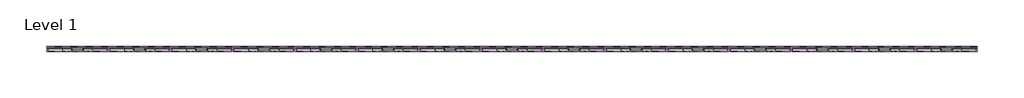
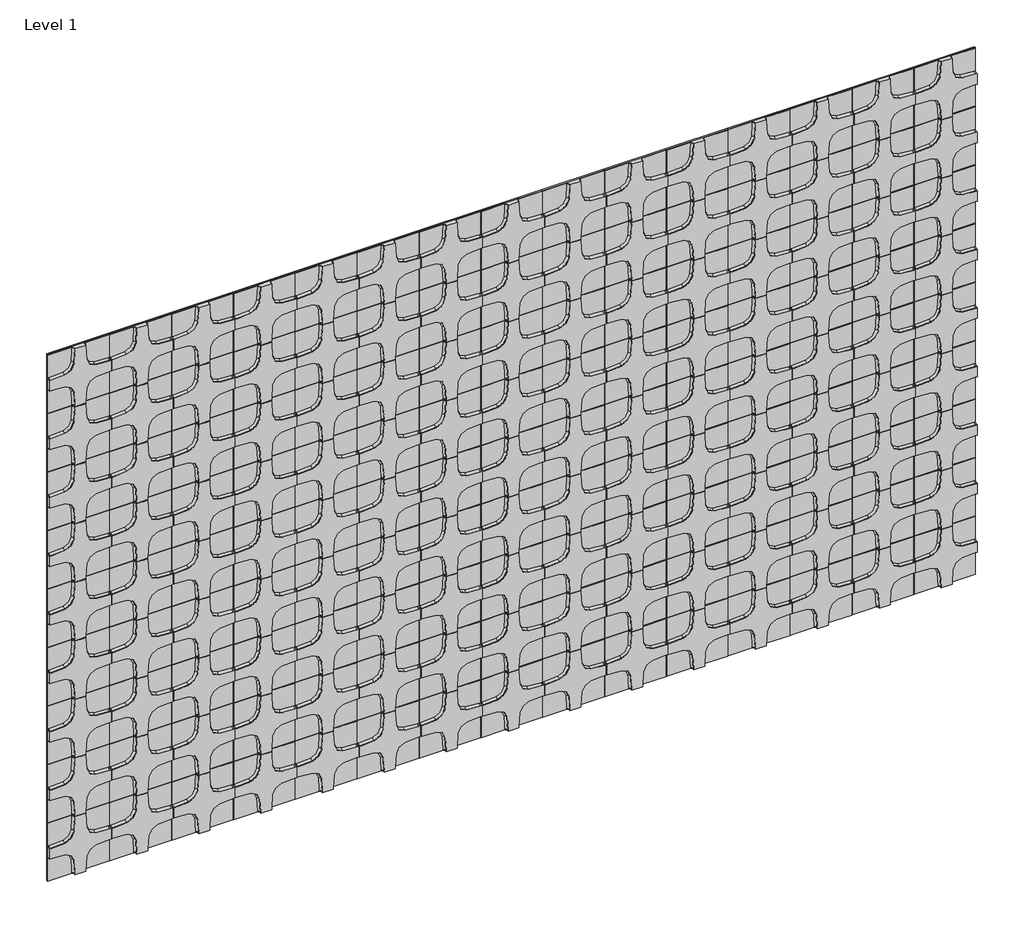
# One storey: 135 proxies.
"""IFC4 building model written with IfcOpenShell, lengths in millimetres."""

from ifc_helpers import new_model, si_unit, origin, place, context, project, spatial, transform, mapped, element, save
from components import specialty_equipment_d5421138

model = new_model("IFC4")

# Units and contexts
model_context = context("Model", 3, world=origin())
ifc_project = project(units=[si_unit("LENGTHUNIT", "METRE", prefix="MILLI")], contexts=[model_context])

# Site, building, storey
site = spatial("IfcSite", under=ifc_project)
building = spatial("IfcBuilding", under=site)
storey = spatial("IfcBuildingStorey", under=building, Name="Level 1", Elevation=0.0)

# Proxies
placement = place(None, origin())
specialty_equipment_shape = specialty_equipment_d5421138(model_context)
element("IfcBuildingElementProxy", 1, Name="Spinneybeck_Quartile : Quartile 2", ObjectType="Spinneybeck_Quartile : Quartile 2", at=placement, inside=storey, context=model_context, shape_type="MappedRepresentation", body=[
    mapped(specialty_equipment_shape, transform((-9133.2606366, 2074.1714817, 152.4), x_axis=(1.0, 0.0, 0.0), y_axis=(0.0, 0.0, 1.0), z_axis=(0.0, -1.0, 0.0))),
])
element("IfcBuildingElementProxy", 2, Name="Spinneybeck_Quartile : Quartile 2", ObjectType="Spinneybeck_Quartile : Quartile 2", at=placement, inside=storey, context=model_context, shape_type="MappedRepresentation", body=[
    mapped(specialty_equipment_shape, transform((-8828.4606366, 2074.1714817, 152.4), x_axis=(1.0, 0.0, 0.0), y_axis=(0.0, 0.0, 1.0), z_axis=(0.0, -1.0, 0.0))),
])
element("IfcBuildingElementProxy", 3, Name="Spinneybeck_Quartile : Quartile 2", ObjectType="Spinneybeck_Quartile : Quartile 2", at=placement, inside=storey, context=model_context, shape_type="MappedRepresentation", body=[
    mapped(specialty_equipment_shape, transform((-8523.6606366, 2074.1714817, 152.4), x_axis=(1.0, 0.0, 0.0), y_axis=(0.0, 0.0, 1.0), z_axis=(0.0, -1.0, 0.0))),
])
element("IfcBuildingElementProxy", 4, Name="Spinneybeck_Quartile : Quartile 2", ObjectType="Spinneybeck_Quartile : Quartile 2", at=placement, inside=storey, context=model_context, shape_type="MappedRepresentation", body=[
    mapped(specialty_equipment_shape, transform((-8218.8606366, 2074.1714817, 152.4), x_axis=(1.0, 0.0, 0.0), y_axis=(0.0, 0.0, 1.0), z_axis=(0.0, -1.0, 0.0))),
])
element("IfcBuildingElementProxy", 5, Name="Spinneybeck_Quartile : Quartile 2", ObjectType="Spinneybeck_Quartile : Quartile 2", at=placement, inside=storey, context=model_context, shape_type="MappedRepresentation", body=[
    mapped(specialty_equipment_shape, transform((-7914.0606366, 2074.1714817, 152.4), x_axis=(1.0, 0.0, 0.0), y_axis=(0.0, 0.0, 1.0), z_axis=(0.0, -1.0, 0.0))),
])
element("IfcBuildingElementProxy", 6, Name="Spinneybeck_Quartile : Quartile 2", ObjectType="Spinneybeck_Quartile : Quartile 2", at=placement, inside=storey, context=model_context, shape_type="MappedRepresentation", body=[
    mapped(specialty_equipment_shape, transform((-7609.2606366, 2074.1714817, 152.4), x_axis=(1.0, 0.0, 0.0), y_axis=(0.0, 0.0, 1.0), z_axis=(0.0, -1.0, 0.0))),
])
element("IfcBuildingElementProxy", 7, Name="Spinneybeck_Quartile : Quartile 2", ObjectType="Spinneybeck_Quartile : Quartile 2", at=placement, inside=storey, context=model_context, shape_type="MappedRepresentation", body=[
    mapped(specialty_equipment_shape, transform((-7304.4606366, 2074.1714817, 152.4), x_axis=(1.0, 0.0, 0.0), y_axis=(0.0, 0.0, 1.0), z_axis=(0.0, -1.0, 0.0))),
])
element("IfcBuildingElementProxy", 8, Name="Spinneybeck_Quartile : Quartile 2", ObjectType="Spinneybeck_Quartile : Quartile 2", at=placement, inside=storey, context=model_context, shape_type="MappedRepresentation", body=[
    mapped(specialty_equipment_shape, transform((-6999.6606366, 2074.1714817, 152.4), x_axis=(1.0, 0.0, 0.0), y_axis=(0.0, 0.0, 1.0), z_axis=(0.0, -1.0, 0.0))),
])
element("IfcBuildingElementProxy", 9, Name="Spinneybeck_Quartile : Quartile 2", ObjectType="Spinneybeck_Quartile : Quartile 2", at=placement, inside=storey, context=model_context, shape_type="MappedRepresentation", body=[
    mapped(specialty_equipment_shape, transform((-6694.8606366, 2074.1714817, 152.4), x_axis=(1.0, 0.0, 0.0), y_axis=(0.0, 0.0, 1.0), z_axis=(0.0, -1.0, 0.0))),
])
element("IfcBuildingElementProxy", 10, Name="Spinneybeck_Quartile : Quartile 2", ObjectType="Spinneybeck_Quartile : Quartile 2", at=placement, inside=storey, context=model_context, shape_type="MappedRepresentation", body=[
    mapped(specialty_equipment_shape, transform((-6390.0606366, 2074.1714817, 152.4), x_axis=(1.0, 0.0, 0.0), y_axis=(0.0, 0.0, 1.0), z_axis=(0.0, -1.0, 0.0))),
])
element("IfcBuildingElementProxy", 11, Name="Spinneybeck_Quartile : Quartile 2", ObjectType="Spinneybeck_Quartile : Quartile 2", at=placement, inside=storey, context=model_context, shape_type="MappedRepresentation", body=[
    mapped(specialty_equipment_shape, transform((-6085.2606366, 2074.1714817, 152.4), x_axis=(1.0, 0.0, 0.0), y_axis=(0.0, 0.0, 1.0), z_axis=(0.0, -1.0, 0.0))),
])
element("IfcBuildingElementProxy", 12, Name="Spinneybeck_Quartile : Quartile 2", ObjectType="Spinneybeck_Quartile : Quartile 2", at=placement, inside=storey, context=model_context, shape_type="MappedRepresentation", body=[
    mapped(specialty_equipment_shape, transform((-5780.4606366, 2074.1714817, 152.4), x_axis=(1.0, 0.0, 0.0), y_axis=(0.0, 0.0, 1.0), z_axis=(0.0, -1.0, 0.0))),
])
element("IfcBuildingElementProxy", 13, Name="Spinneybeck_Quartile : Quartile 2", ObjectType="Spinneybeck_Quartile : Quartile 2", at=placement, inside=storey, context=model_context, shape_type="MappedRepresentation", body=[
    mapped(specialty_equipment_shape, transform((-5475.6606366, 2074.1714817, 152.4), x_axis=(1.0, 0.0, 0.0), y_axis=(0.0, 0.0, 1.0), z_axis=(0.0, -1.0, 0.0))),
])
element("IfcBuildingElementProxy", 14, Name="Spinneybeck_Quartile : Quartile 2", ObjectType="Spinneybeck_Quartile : Quartile 2", at=placement, inside=storey, context=model_context, shape_type="MappedRepresentation", body=[
    mapped(specialty_equipment_shape, transform((-5170.8606366, 2074.1714817, 152.4), x_axis=(1.0, 0.0, 0.0), y_axis=(0.0, 0.0, 1.0), z_axis=(0.0, -1.0, 0.0))),
])
element("IfcBuildingElementProxy", 15, Name="Spinneybeck_Quartile : Quartile 2", ObjectType="Spinneybeck_Quartile : Quartile 2", at=placement, inside=storey, context=model_context, shape_type="MappedRepresentation", body=[
    mapped(specialty_equipment_shape, transform((-4866.0606366, 2074.1714817, 152.4), x_axis=(1.0, 0.0, 0.0), y_axis=(0.0, 0.0, 1.0), z_axis=(0.0, -1.0, 0.0))),
])
element("IfcBuildingElementProxy", 16, Name="Spinneybeck_Quartile : Quartile 2", ObjectType="Spinneybeck_Quartile : Quartile 2", at=placement, inside=storey, context=model_context, shape_type="MappedRepresentation", body=[
    mapped(specialty_equipment_shape, transform((-9133.2606366, 2074.1714817, 457.2), x_axis=(1.0, 0.0, 0.0), y_axis=(0.0, 0.0, 1.0), z_axis=(0.0, -1.0, 0.0))),
])
element("IfcBuildingElementProxy", 17, Name="Spinneybeck_Quartile : Quartile 2", ObjectType="Spinneybeck_Quartile : Quartile 2", at=placement, inside=storey, context=model_context, shape_type="MappedRepresentation", body=[
    mapped(specialty_equipment_shape, transform((-8828.4606366, 2074.1714817, 457.2), x_axis=(1.0, 0.0, 0.0), y_axis=(0.0, 0.0, 1.0), z_axis=(0.0, -1.0, 0.0))),
])
element("IfcBuildingElementProxy", 18, Name="Spinneybeck_Quartile : Quartile 2", ObjectType="Spinneybeck_Quartile : Quartile 2", at=placement, inside=storey, context=model_context, shape_type="MappedRepresentation", body=[
    mapped(specialty_equipment_shape, transform((-8523.6606366, 2074.1714817, 457.2), x_axis=(1.0, 0.0, 0.0), y_axis=(0.0, 0.0, 1.0), z_axis=(0.0, -1.0, 0.0))),
])
element("IfcBuildingElementProxy", 19, Name="Spinneybeck_Quartile : Quartile 2", ObjectType="Spinneybeck_Quartile : Quartile 2", at=placement, inside=storey, context=model_context, shape_type="MappedRepresentation", body=[
    mapped(specialty_equipment_shape, transform((-8218.8606366, 2074.1714817, 457.2), x_axis=(1.0, 0.0, 0.0), y_axis=(0.0, 0.0, 1.0), z_axis=(0.0, -1.0, 0.0))),
])
element("IfcBuildingElementProxy", 20, Name="Spinneybeck_Quartile : Quartile 2", ObjectType="Spinneybeck_Quartile : Quartile 2", at=placement, inside=storey, context=model_context, shape_type="MappedRepresentation", body=[
    mapped(specialty_equipment_shape, transform((-7914.0606366, 2074.1714817, 457.2), x_axis=(1.0, 0.0, 0.0), y_axis=(0.0, 0.0, 1.0), z_axis=(0.0, -1.0, 0.0))),
])
element("IfcBuildingElementProxy", 21, Name="Spinneybeck_Quartile : Quartile 2", ObjectType="Spinneybeck_Quartile : Quartile 2", at=placement, inside=storey, context=model_context, shape_type="MappedRepresentation", body=[
    mapped(specialty_equipment_shape, transform((-7609.2606366, 2074.1714817, 457.2), x_axis=(1.0, 0.0, 0.0), y_axis=(0.0, 0.0, 1.0), z_axis=(0.0, -1.0, 0.0))),
])
element("IfcBuildingElementProxy", 22, Name="Spinneybeck_Quartile : Quartile 2", ObjectType="Spinneybeck_Quartile : Quartile 2", at=placement, inside=storey, context=model_context, shape_type="MappedRepresentation", body=[
    mapped(specialty_equipment_shape, transform((-7304.4606366, 2074.1714817, 457.2), x_axis=(1.0, 0.0, 0.0), y_axis=(0.0, 0.0, 1.0), z_axis=(0.0, -1.0, 0.0))),
])
element("IfcBuildingElementProxy", 23, Name="Spinneybeck_Quartile : Quartile 2", ObjectType="Spinneybeck_Quartile : Quartile 2", at=placement, inside=storey, context=model_context, shape_type="MappedRepresentation", body=[
    mapped(specialty_equipment_shape, transform((-6999.6606366, 2074.1714817, 457.2), x_axis=(1.0, 0.0, 0.0), y_axis=(0.0, 0.0, 1.0), z_axis=(0.0, -1.0, 0.0))),
])
element("IfcBuildingElementProxy", 24, Name="Spinneybeck_Quartile : Quartile 2", ObjectType="Spinneybeck_Quartile : Quartile 2", at=placement, inside=storey, context=model_context, shape_type="MappedRepresentation", body=[
    mapped(specialty_equipment_shape, transform((-6694.8606366, 2074.1714817, 457.2), x_axis=(1.0, 0.0, 0.0), y_axis=(0.0, 0.0, 1.0), z_axis=(0.0, -1.0, 0.0))),
])
element("IfcBuildingElementProxy", 25, Name="Spinneybeck_Quartile : Quartile 2", ObjectType="Spinneybeck_Quartile : Quartile 2", at=placement, inside=storey, context=model_context, shape_type="MappedRepresentation", body=[
    mapped(specialty_equipment_shape, transform((-6390.0606366, 2074.1714817, 457.2), x_axis=(1.0, 0.0, 0.0), y_axis=(0.0, 0.0, 1.0), z_axis=(0.0, -1.0, 0.0))),
])
element("IfcBuildingElementProxy", 26, Name="Spinneybeck_Quartile : Quartile 2", ObjectType="Spinneybeck_Quartile : Quartile 2", at=placement, inside=storey, context=model_context, shape_type="MappedRepresentation", body=[
    mapped(specialty_equipment_shape, transform((-6085.2606366, 2074.1714817, 457.2), x_axis=(1.0, 0.0, 0.0), y_axis=(0.0, 0.0, 1.0), z_axis=(0.0, -1.0, 0.0))),
])
element("IfcBuildingElementProxy", 27, Name="Spinneybeck_Quartile : Quartile 2", ObjectType="Spinneybeck_Quartile : Quartile 2", at=placement, inside=storey, context=model_context, shape_type="MappedRepresentation", body=[
    mapped(specialty_equipment_shape, transform((-5780.4606366, 2074.1714817, 457.2), x_axis=(1.0, 0.0, 0.0), y_axis=(0.0, 0.0, 1.0), z_axis=(0.0, -1.0, 0.0))),
])
element("IfcBuildingElementProxy", 28, Name="Spinneybeck_Quartile : Quartile 2", ObjectType="Spinneybeck_Quartile : Quartile 2", at=placement, inside=storey, context=model_context, shape_type="MappedRepresentation", body=[
    mapped(specialty_equipment_shape, transform((-5475.6606366, 2074.1714817, 457.2), x_axis=(1.0, 0.0, 0.0), y_axis=(0.0, 0.0, 1.0), z_axis=(0.0, -1.0, 0.0))),
])
element("IfcBuildingElementProxy", 29, Name="Spinneybeck_Quartile : Quartile 2", ObjectType="Spinneybeck_Quartile : Quartile 2", at=placement, inside=storey, context=model_context, shape_type="MappedRepresentation", body=[
    mapped(specialty_equipment_shape, transform((-5170.8606366, 2074.1714817, 457.2), x_axis=(1.0, 0.0, 0.0), y_axis=(0.0, 0.0, 1.0), z_axis=(0.0, -1.0, 0.0))),
])
element("IfcBuildingElementProxy", 30, Name="Spinneybeck_Quartile : Quartile 2", ObjectType="Spinneybeck_Quartile : Quartile 2", at=placement, inside=storey, context=model_context, shape_type="MappedRepresentation", body=[
    mapped(specialty_equipment_shape, transform((-4866.0606366, 2074.1714817, 457.2), x_axis=(1.0, 0.0, 0.0), y_axis=(0.0, 0.0, 1.0), z_axis=(0.0, -1.0, 0.0))),
])
element("IfcBuildingElementProxy", 31, Name="Spinneybeck_Quartile : Quartile 2", ObjectType="Spinneybeck_Quartile : Quartile 2", at=placement, inside=storey, context=model_context, shape_type="MappedRepresentation", body=[
    mapped(specialty_equipment_shape, transform((-9133.2606366, 2074.1714817, 762.0), x_axis=(1.0, 0.0, 0.0), y_axis=(0.0, 0.0, 1.0), z_axis=(0.0, -1.0, 0.0))),
])
element("IfcBuildingElementProxy", 32, Name="Spinneybeck_Quartile : Quartile 2", ObjectType="Spinneybeck_Quartile : Quartile 2", at=placement, inside=storey, context=model_context, shape_type="MappedRepresentation", body=[
    mapped(specialty_equipment_shape, transform((-8828.4606366, 2074.1714817, 762.0), x_axis=(1.0, 0.0, 0.0), y_axis=(0.0, 0.0, 1.0), z_axis=(0.0, -1.0, 0.0))),
])
element("IfcBuildingElementProxy", 33, Name="Spinneybeck_Quartile : Quartile 2", ObjectType="Spinneybeck_Quartile : Quartile 2", at=placement, inside=storey, context=model_context, shape_type="MappedRepresentation", body=[
    mapped(specialty_equipment_shape, transform((-8523.6606366, 2074.1714817, 762.0), x_axis=(1.0, 0.0, 0.0), y_axis=(0.0, 0.0, 1.0), z_axis=(0.0, -1.0, 0.0))),
])
element("IfcBuildingElementProxy", 34, Name="Spinneybeck_Quartile : Quartile 2", ObjectType="Spinneybeck_Quartile : Quartile 2", at=placement, inside=storey, context=model_context, shape_type="MappedRepresentation", body=[
    mapped(specialty_equipment_shape, transform((-8218.8606366, 2074.1714817, 762.0), x_axis=(1.0, 0.0, 0.0), y_axis=(0.0, 0.0, 1.0), z_axis=(0.0, -1.0, 0.0))),
])
element("IfcBuildingElementProxy", 35, Name="Spinneybeck_Quartile : Quartile 2", ObjectType="Spinneybeck_Quartile : Quartile 2", at=placement, inside=storey, context=model_context, shape_type="MappedRepresentation", body=[
    mapped(specialty_equipment_shape, transform((-7914.0606366, 2074.1714817, 762.0), x_axis=(1.0, 0.0, 0.0), y_axis=(0.0, 0.0, 1.0), z_axis=(0.0, -1.0, 0.0))),
])
element("IfcBuildingElementProxy", 36, Name="Spinneybeck_Quartile : Quartile 2", ObjectType="Spinneybeck_Quartile : Quartile 2", at=placement, inside=storey, context=model_context, shape_type="MappedRepresentation", body=[
    mapped(specialty_equipment_shape, transform((-7609.2606366, 2074.1714817, 762.0), x_axis=(1.0, 0.0, 0.0), y_axis=(0.0, 0.0, 1.0), z_axis=(0.0, -1.0, 0.0))),
])
element("IfcBuildingElementProxy", 37, Name="Spinneybeck_Quartile : Quartile 2", ObjectType="Spinneybeck_Quartile : Quartile 2", at=placement, inside=storey, context=model_context, shape_type="MappedRepresentation", body=[
    mapped(specialty_equipment_shape, transform((-7304.4606366, 2074.1714817, 762.0), x_axis=(1.0, 0.0, 0.0), y_axis=(0.0, 0.0, 1.0), z_axis=(0.0, -1.0, 0.0))),
])
element("IfcBuildingElementProxy", 38, Name="Spinneybeck_Quartile : Quartile 2", ObjectType="Spinneybeck_Quartile : Quartile 2", at=placement, inside=storey, context=model_context, shape_type="MappedRepresentation", body=[
    mapped(specialty_equipment_shape, transform((-6999.6606366, 2074.1714817, 762.0), x_axis=(1.0, 0.0, 0.0), y_axis=(0.0, 0.0, 1.0), z_axis=(0.0, -1.0, 0.0))),
])
element("IfcBuildingElementProxy", 39, Name="Spinneybeck_Quartile : Quartile 2", ObjectType="Spinneybeck_Quartile : Quartile 2", at=placement, inside=storey, context=model_context, shape_type="MappedRepresentation", body=[
    mapped(specialty_equipment_shape, transform((-6694.8606366, 2074.1714817, 762.0), x_axis=(1.0, 0.0, 0.0), y_axis=(0.0, 0.0, 1.0), z_axis=(0.0, -1.0, 0.0))),
])
element("IfcBuildingElementProxy", 40, Name="Spinneybeck_Quartile : Quartile 2", ObjectType="Spinneybeck_Quartile : Quartile 2", at=placement, inside=storey, context=model_context, shape_type="MappedRepresentation", body=[
    mapped(specialty_equipment_shape, transform((-6390.0606366, 2074.1714817, 762.0), x_axis=(1.0, 0.0, 0.0), y_axis=(0.0, 0.0, 1.0), z_axis=(0.0, -1.0, 0.0))),
])
element("IfcBuildingElementProxy", 41, Name="Spinneybeck_Quartile : Quartile 2", ObjectType="Spinneybeck_Quartile : Quartile 2", at=placement, inside=storey, context=model_context, shape_type="MappedRepresentation", body=[
    mapped(specialty_equipment_shape, transform((-6085.2606366, 2074.1714817, 762.0), x_axis=(1.0, 0.0, 0.0), y_axis=(0.0, 0.0, 1.0), z_axis=(0.0, -1.0, 0.0))),
])
element("IfcBuildingElementProxy", 42, Name="Spinneybeck_Quartile : Quartile 2", ObjectType="Spinneybeck_Quartile : Quartile 2", at=placement, inside=storey, context=model_context, shape_type="MappedRepresentation", body=[
    mapped(specialty_equipment_shape, transform((-5780.4606366, 2074.1714817, 762.0), x_axis=(1.0, 0.0, 0.0), y_axis=(0.0, 0.0, 1.0), z_axis=(0.0, -1.0, 0.0))),
])
element("IfcBuildingElementProxy", 43, Name="Spinneybeck_Quartile : Quartile 2", ObjectType="Spinneybeck_Quartile : Quartile 2", at=placement, inside=storey, context=model_context, shape_type="MappedRepresentation", body=[
    mapped(specialty_equipment_shape, transform((-5475.6606366, 2074.1714817, 762.0), x_axis=(1.0, 0.0, 0.0), y_axis=(0.0, 0.0, 1.0), z_axis=(0.0, -1.0, 0.0))),
])
element("IfcBuildingElementProxy", 44, Name="Spinneybeck_Quartile : Quartile 2", ObjectType="Spinneybeck_Quartile : Quartile 2", at=placement, inside=storey, context=model_context, shape_type="MappedRepresentation", body=[
    mapped(specialty_equipment_shape, transform((-5170.8606366, 2074.1714817, 762.0), x_axis=(1.0, 0.0, 0.0), y_axis=(0.0, 0.0, 1.0), z_axis=(0.0, -1.0, 0.0))),
])
element("IfcBuildingElementProxy", 45, Name="Spinneybeck_Quartile : Quartile 2", ObjectType="Spinneybeck_Quartile : Quartile 2", at=placement, inside=storey, context=model_context, shape_type="MappedRepresentation", body=[
    mapped(specialty_equipment_shape, transform((-4866.0606366, 2074.1714817, 762.0), x_axis=(1.0, 0.0, 0.0), y_axis=(0.0, 0.0, 1.0), z_axis=(0.0, -1.0, 0.0))),
])
element("IfcBuildingElementProxy", 46, Name="Spinneybeck_Quartile : Quartile 2", ObjectType="Spinneybeck_Quartile : Quartile 2", at=placement, inside=storey, context=model_context, shape_type="MappedRepresentation", body=[
    mapped(specialty_equipment_shape, transform((-9133.2606366, 2074.1714817, 1066.8), x_axis=(1.0, 0.0, 0.0), y_axis=(0.0, 0.0, 1.0), z_axis=(0.0, -1.0, 0.0))),
])
element("IfcBuildingElementProxy", 47, Name="Spinneybeck_Quartile : Quartile 2", ObjectType="Spinneybeck_Quartile : Quartile 2", at=placement, inside=storey, context=model_context, shape_type="MappedRepresentation", body=[
    mapped(specialty_equipment_shape, transform((-8828.4606366, 2074.1714817, 1066.8), x_axis=(1.0, 0.0, 0.0), y_axis=(0.0, 0.0, 1.0), z_axis=(0.0, -1.0, 0.0))),
])
element("IfcBuildingElementProxy", 48, Name="Spinneybeck_Quartile : Quartile 2", ObjectType="Spinneybeck_Quartile : Quartile 2", at=placement, inside=storey, context=model_context, shape_type="MappedRepresentation", body=[
    mapped(specialty_equipment_shape, transform((-8523.6606366, 2074.1714817, 1066.8), x_axis=(1.0, 0.0, 0.0), y_axis=(0.0, 0.0, 1.0), z_axis=(0.0, -1.0, 0.0))),
])
element("IfcBuildingElementProxy", 49, Name="Spinneybeck_Quartile : Quartile 2", ObjectType="Spinneybeck_Quartile : Quartile 2", at=placement, inside=storey, context=model_context, shape_type="MappedRepresentation", body=[
    mapped(specialty_equipment_shape, transform((-8218.8606366, 2074.1714817, 1066.8), x_axis=(1.0, 0.0, 0.0), y_axis=(0.0, 0.0, 1.0), z_axis=(0.0, -1.0, 0.0))),
])
element("IfcBuildingElementProxy", 50, Name="Spinneybeck_Quartile : Quartile 2", ObjectType="Spinneybeck_Quartile : Quartile 2", at=placement, inside=storey, context=model_context, shape_type="MappedRepresentation", body=[
    mapped(specialty_equipment_shape, transform((-7914.0606366, 2074.1714817, 1066.8), x_axis=(1.0, 0.0, 0.0), y_axis=(0.0, 0.0, 1.0), z_axis=(0.0, -1.0, 0.0))),
])
element("IfcBuildingElementProxy", 51, Name="Spinneybeck_Quartile : Quartile 2", ObjectType="Spinneybeck_Quartile : Quartile 2", at=placement, inside=storey, context=model_context, shape_type="MappedRepresentation", body=[
    mapped(specialty_equipment_shape, transform((-7609.2606366, 2074.1714817, 1066.8), x_axis=(1.0, 0.0, 0.0), y_axis=(0.0, 0.0, 1.0), z_axis=(0.0, -1.0, 0.0))),
])
element("IfcBuildingElementProxy", 52, Name="Spinneybeck_Quartile : Quartile 2", ObjectType="Spinneybeck_Quartile : Quartile 2", at=placement, inside=storey, context=model_context, shape_type="MappedRepresentation", body=[
    mapped(specialty_equipment_shape, transform((-7304.4606366, 2074.1714817, 1066.8), x_axis=(1.0, 0.0, 0.0), y_axis=(0.0, 0.0, 1.0), z_axis=(0.0, -1.0, 0.0))),
])
element("IfcBuildingElementProxy", 53, Name="Spinneybeck_Quartile : Quartile 2", ObjectType="Spinneybeck_Quartile : Quartile 2", at=placement, inside=storey, context=model_context, shape_type="MappedRepresentation", body=[
    mapped(specialty_equipment_shape, transform((-6999.6606366, 2074.1714817, 1066.8), x_axis=(1.0, 0.0, 0.0), y_axis=(0.0, 0.0, 1.0), z_axis=(0.0, -1.0, 0.0))),
])
element("IfcBuildingElementProxy", 54, Name="Spinneybeck_Quartile : Quartile 2", ObjectType="Spinneybeck_Quartile : Quartile 2", at=placement, inside=storey, context=model_context, shape_type="MappedRepresentation", body=[
    mapped(specialty_equipment_shape, transform((-6694.8606366, 2074.1714817, 1066.8), x_axis=(1.0, 0.0, 0.0), y_axis=(0.0, 0.0, 1.0), z_axis=(0.0, -1.0, 0.0))),
])
element("IfcBuildingElementProxy", 55, Name="Spinneybeck_Quartile : Quartile 2", ObjectType="Spinneybeck_Quartile : Quartile 2", at=placement, inside=storey, context=model_context, shape_type="MappedRepresentation", body=[
    mapped(specialty_equipment_shape, transform((-6390.0606366, 2074.1714817, 1066.8), x_axis=(1.0, 0.0, 0.0), y_axis=(0.0, 0.0, 1.0), z_axis=(0.0, -1.0, 0.0))),
])
element("IfcBuildingElementProxy", 56, Name="Spinneybeck_Quartile : Quartile 2", ObjectType="Spinneybeck_Quartile : Quartile 2", at=placement, inside=storey, context=model_context, shape_type="MappedRepresentation", body=[
    mapped(specialty_equipment_shape, transform((-6085.2606366, 2074.1714817, 1066.8), x_axis=(1.0, 0.0, 0.0), y_axis=(0.0, 0.0, 1.0), z_axis=(0.0, -1.0, 0.0))),
])
element("IfcBuildingElementProxy", 57, Name="Spinneybeck_Quartile : Quartile 2", ObjectType="Spinneybeck_Quartile : Quartile 2", at=placement, inside=storey, context=model_context, shape_type="MappedRepresentation", body=[
    mapped(specialty_equipment_shape, transform((-5780.4606366, 2074.1714817, 1066.8), x_axis=(1.0, 0.0, 0.0), y_axis=(0.0, 0.0, 1.0), z_axis=(0.0, -1.0, 0.0))),
])
element("IfcBuildingElementProxy", 58, Name="Spinneybeck_Quartile : Quartile 2", ObjectType="Spinneybeck_Quartile : Quartile 2", at=placement, inside=storey, context=model_context, shape_type="MappedRepresentation", body=[
    mapped(specialty_equipment_shape, transform((-5475.6606366, 2074.1714817, 1066.8), x_axis=(1.0, 0.0, 0.0), y_axis=(0.0, 0.0, 1.0), z_axis=(0.0, -1.0, 0.0))),
])
element("IfcBuildingElementProxy", 59, Name="Spinneybeck_Quartile : Quartile 2", ObjectType="Spinneybeck_Quartile : Quartile 2", at=placement, inside=storey, context=model_context, shape_type="MappedRepresentation", body=[
    mapped(specialty_equipment_shape, transform((-5170.8606366, 2074.1714817, 1066.8), x_axis=(1.0, 0.0, 0.0), y_axis=(0.0, 0.0, 1.0), z_axis=(0.0, -1.0, 0.0))),
])
element("IfcBuildingElementProxy", 60, Name="Spinneybeck_Quartile : Quartile 2", ObjectType="Spinneybeck_Quartile : Quartile 2", at=placement, inside=storey, context=model_context, shape_type="MappedRepresentation", body=[
    mapped(specialty_equipment_shape, transform((-4866.0606366, 2074.1714817, 1066.8), x_axis=(1.0, 0.0, 0.0), y_axis=(0.0, 0.0, 1.0), z_axis=(0.0, -1.0, 0.0))),
])
element("IfcBuildingElementProxy", 61, Name="Spinneybeck_Quartile : Quartile 2", ObjectType="Spinneybeck_Quartile : Quartile 2", at=placement, inside=storey, context=model_context, shape_type="MappedRepresentation", body=[
    mapped(specialty_equipment_shape, transform((-9133.2606366, 2074.1714817, 1371.6), x_axis=(1.0, 0.0, 0.0), y_axis=(0.0, 0.0, 1.0), z_axis=(0.0, -1.0, 0.0))),
])
element("IfcBuildingElementProxy", 62, Name="Spinneybeck_Quartile : Quartile 2", ObjectType="Spinneybeck_Quartile : Quartile 2", at=placement, inside=storey, context=model_context, shape_type="MappedRepresentation", body=[
    mapped(specialty_equipment_shape, transform((-8828.4606366, 2074.1714817, 1371.6), x_axis=(1.0, 0.0, 0.0), y_axis=(0.0, 0.0, 1.0), z_axis=(0.0, -1.0, 0.0))),
])
element("IfcBuildingElementProxy", 63, Name="Spinneybeck_Quartile : Quartile 2", ObjectType="Spinneybeck_Quartile : Quartile 2", at=placement, inside=storey, context=model_context, shape_type="MappedRepresentation", body=[
    mapped(specialty_equipment_shape, transform((-8523.6606366, 2074.1714817, 1371.6), x_axis=(1.0, 0.0, 0.0), y_axis=(0.0, 0.0, 1.0), z_axis=(0.0, -1.0, 0.0))),
])
element("IfcBuildingElementProxy", 64, Name="Spinneybeck_Quartile : Quartile 2", ObjectType="Spinneybeck_Quartile : Quartile 2", at=placement, inside=storey, context=model_context, shape_type="MappedRepresentation", body=[
    mapped(specialty_equipment_shape, transform((-8218.8606366, 2074.1714817, 1371.6), x_axis=(1.0, 0.0, 0.0), y_axis=(0.0, 0.0, 1.0), z_axis=(0.0, -1.0, 0.0))),
])
element("IfcBuildingElementProxy", 65, Name="Spinneybeck_Quartile : Quartile 2", ObjectType="Spinneybeck_Quartile : Quartile 2", at=placement, inside=storey, context=model_context, shape_type="MappedRepresentation", body=[
    mapped(specialty_equipment_shape, transform((-7914.0606366, 2074.1714817, 1371.6), x_axis=(1.0, 0.0, 0.0), y_axis=(0.0, 0.0, 1.0), z_axis=(0.0, -1.0, 0.0))),
])
element("IfcBuildingElementProxy", 66, Name="Spinneybeck_Quartile : Quartile 2", ObjectType="Spinneybeck_Quartile : Quartile 2", at=placement, inside=storey, context=model_context, shape_type="MappedRepresentation", body=[
    mapped(specialty_equipment_shape, transform((-7609.2606366, 2074.1714817, 1371.6), x_axis=(1.0, 0.0, 0.0), y_axis=(0.0, 0.0, 1.0), z_axis=(0.0, -1.0, 0.0))),
])
element("IfcBuildingElementProxy", 67, Name="Spinneybeck_Quartile : Quartile 2", ObjectType="Spinneybeck_Quartile : Quartile 2", at=placement, inside=storey, context=model_context, shape_type="MappedRepresentation", body=[
    mapped(specialty_equipment_shape, transform((-7304.4606366, 2074.1714817, 1371.6), x_axis=(1.0, 0.0, 0.0), y_axis=(0.0, 0.0, 1.0), z_axis=(0.0, -1.0, 0.0))),
])
element("IfcBuildingElementProxy", 68, Name="Spinneybeck_Quartile : Quartile 2", ObjectType="Spinneybeck_Quartile : Quartile 2", at=placement, inside=storey, context=model_context, shape_type="MappedRepresentation", body=[
    mapped(specialty_equipment_shape, transform((-6999.6606366, 2074.1714817, 1371.6), x_axis=(1.0, 0.0, 0.0), y_axis=(0.0, 0.0, 1.0), z_axis=(0.0, -1.0, 0.0))),
])
element("IfcBuildingElementProxy", 69, Name="Spinneybeck_Quartile : Quartile 2", ObjectType="Spinneybeck_Quartile : Quartile 2", at=placement, inside=storey, context=model_context, shape_type="MappedRepresentation", body=[
    mapped(specialty_equipment_shape, transform((-6694.8606366, 2074.1714817, 1371.6), x_axis=(1.0, 0.0, 0.0), y_axis=(0.0, 0.0, 1.0), z_axis=(0.0, -1.0, 0.0))),
])
element("IfcBuildingElementProxy", 70, Name="Spinneybeck_Quartile : Quartile 2", ObjectType="Spinneybeck_Quartile : Quartile 2", at=placement, inside=storey, context=model_context, shape_type="MappedRepresentation", body=[
    mapped(specialty_equipment_shape, transform((-6390.0606366, 2074.1714817, 1371.6), x_axis=(1.0, 0.0, 0.0), y_axis=(0.0, 0.0, 1.0), z_axis=(0.0, -1.0, 0.0))),
])
element("IfcBuildingElementProxy", 71, Name="Spinneybeck_Quartile : Quartile 2", ObjectType="Spinneybeck_Quartile : Quartile 2", at=placement, inside=storey, context=model_context, shape_type="MappedRepresentation", body=[
    mapped(specialty_equipment_shape, transform((-6085.2606366, 2074.1714817, 1371.6), x_axis=(1.0, 0.0, 0.0), y_axis=(0.0, 0.0, 1.0), z_axis=(0.0, -1.0, 0.0))),
])
element("IfcBuildingElementProxy", 72, Name="Spinneybeck_Quartile : Quartile 2", ObjectType="Spinneybeck_Quartile : Quartile 2", at=placement, inside=storey, context=model_context, shape_type="MappedRepresentation", body=[
    mapped(specialty_equipment_shape, transform((-5780.4606366, 2074.1714817, 1371.6), x_axis=(1.0, 0.0, 0.0), y_axis=(0.0, 0.0, 1.0), z_axis=(0.0, -1.0, 0.0))),
])
element("IfcBuildingElementProxy", 73, Name="Spinneybeck_Quartile : Quartile 2", ObjectType="Spinneybeck_Quartile : Quartile 2", at=placement, inside=storey, context=model_context, shape_type="MappedRepresentation", body=[
    mapped(specialty_equipment_shape, transform((-5475.6606366, 2074.1714817, 1371.6), x_axis=(1.0, 0.0, 0.0), y_axis=(0.0, 0.0, 1.0), z_axis=(0.0, -1.0, 0.0))),
])
element("IfcBuildingElementProxy", 74, Name="Spinneybeck_Quartile : Quartile 2", ObjectType="Spinneybeck_Quartile : Quartile 2", at=placement, inside=storey, context=model_context, shape_type="MappedRepresentation", body=[
    mapped(specialty_equipment_shape, transform((-5170.8606366, 2074.1714817, 1371.6), x_axis=(1.0, 0.0, 0.0), y_axis=(0.0, 0.0, 1.0), z_axis=(0.0, -1.0, 0.0))),
])
element("IfcBuildingElementProxy", 75, Name="Spinneybeck_Quartile : Quartile 2", ObjectType="Spinneybeck_Quartile : Quartile 2", at=placement, inside=storey, context=model_context, shape_type="MappedRepresentation", body=[
    mapped(specialty_equipment_shape, transform((-4866.0606366, 2074.1714817, 1371.6), x_axis=(1.0, 0.0, 0.0), y_axis=(0.0, 0.0, 1.0), z_axis=(0.0, -1.0, 0.0))),
])
element("IfcBuildingElementProxy", 76, Name="Spinneybeck_Quartile : Quartile 2", ObjectType="Spinneybeck_Quartile : Quartile 2", at=placement, inside=storey, context=model_context, shape_type="MappedRepresentation", body=[
    mapped(specialty_equipment_shape, transform((-9133.2606366, 2074.1714817, 1676.4), x_axis=(1.0, 0.0, 0.0), y_axis=(0.0, 0.0, 1.0), z_axis=(0.0, -1.0, 0.0))),
])
element("IfcBuildingElementProxy", 77, Name="Spinneybeck_Quartile : Quartile 2", ObjectType="Spinneybeck_Quartile : Quartile 2", at=placement, inside=storey, context=model_context, shape_type="MappedRepresentation", body=[
    mapped(specialty_equipment_shape, transform((-8828.4606366, 2074.1714817, 1676.4), x_axis=(1.0, 0.0, 0.0), y_axis=(0.0, 0.0, 1.0), z_axis=(0.0, -1.0, 0.0))),
])
element("IfcBuildingElementProxy", 78, Name="Spinneybeck_Quartile : Quartile 2", ObjectType="Spinneybeck_Quartile : Quartile 2", at=placement, inside=storey, context=model_context, shape_type="MappedRepresentation", body=[
    mapped(specialty_equipment_shape, transform((-8523.6606366, 2074.1714817, 1676.4), x_axis=(1.0, 0.0, 0.0), y_axis=(0.0, 0.0, 1.0), z_axis=(0.0, -1.0, 0.0))),
])
element("IfcBuildingElementProxy", 79, Name="Spinneybeck_Quartile : Quartile 2", ObjectType="Spinneybeck_Quartile : Quartile 2", at=placement, inside=storey, context=model_context, shape_type="MappedRepresentation", body=[
    mapped(specialty_equipment_shape, transform((-8218.8606366, 2074.1714817, 1676.4), x_axis=(1.0, 0.0, 0.0), y_axis=(0.0, 0.0, 1.0), z_axis=(0.0, -1.0, 0.0))),
])
element("IfcBuildingElementProxy", 80, Name="Spinneybeck_Quartile : Quartile 2", ObjectType="Spinneybeck_Quartile : Quartile 2", at=placement, inside=storey, context=model_context, shape_type="MappedRepresentation", body=[
    mapped(specialty_equipment_shape, transform((-7914.0606366, 2074.1714817, 1676.4), x_axis=(1.0, 0.0, 0.0), y_axis=(0.0, 0.0, 1.0), z_axis=(0.0, -1.0, 0.0))),
])
element("IfcBuildingElementProxy", 81, Name="Spinneybeck_Quartile : Quartile 2", ObjectType="Spinneybeck_Quartile : Quartile 2", at=placement, inside=storey, context=model_context, shape_type="MappedRepresentation", body=[
    mapped(specialty_equipment_shape, transform((-7609.2606366, 2074.1714817, 1676.4), x_axis=(1.0, 0.0, 0.0), y_axis=(0.0, 0.0, 1.0), z_axis=(0.0, -1.0, 0.0))),
])
element("IfcBuildingElementProxy", 82, Name="Spinneybeck_Quartile : Quartile 2", ObjectType="Spinneybeck_Quartile : Quartile 2", at=placement, inside=storey, context=model_context, shape_type="MappedRepresentation", body=[
    mapped(specialty_equipment_shape, transform((-7304.4606366, 2074.1714817, 1676.4), x_axis=(1.0, 0.0, 0.0), y_axis=(0.0, 0.0, 1.0), z_axis=(0.0, -1.0, 0.0))),
])
element("IfcBuildingElementProxy", 83, Name="Spinneybeck_Quartile : Quartile 2", ObjectType="Spinneybeck_Quartile : Quartile 2", at=placement, inside=storey, context=model_context, shape_type="MappedRepresentation", body=[
    mapped(specialty_equipment_shape, transform((-6999.6606366, 2074.1714817, 1676.4), x_axis=(1.0, 0.0, 0.0), y_axis=(0.0, 0.0, 1.0), z_axis=(0.0, -1.0, 0.0))),
])
element("IfcBuildingElementProxy", 84, Name="Spinneybeck_Quartile : Quartile 2", ObjectType="Spinneybeck_Quartile : Quartile 2", at=placement, inside=storey, context=model_context, shape_type="MappedRepresentation", body=[
    mapped(specialty_equipment_shape, transform((-6694.8606366, 2074.1714817, 1676.4), x_axis=(1.0, 0.0, 0.0), y_axis=(0.0, 0.0, 1.0), z_axis=(0.0, -1.0, 0.0))),
])
element("IfcBuildingElementProxy", 85, Name="Spinneybeck_Quartile : Quartile 2", ObjectType="Spinneybeck_Quartile : Quartile 2", at=placement, inside=storey, context=model_context, shape_type="MappedRepresentation", body=[
    mapped(specialty_equipment_shape, transform((-6390.0606366, 2074.1714817, 1676.4), x_axis=(1.0, 0.0, 0.0), y_axis=(0.0, 0.0, 1.0), z_axis=(0.0, -1.0, 0.0))),
])
element("IfcBuildingElementProxy", 86, Name="Spinneybeck_Quartile : Quartile 2", ObjectType="Spinneybeck_Quartile : Quartile 2", at=placement, inside=storey, context=model_context, shape_type="MappedRepresentation", body=[
    mapped(specialty_equipment_shape, transform((-6085.2606366, 2074.1714817, 1676.4), x_axis=(1.0, 0.0, 0.0), y_axis=(0.0, 0.0, 1.0), z_axis=(0.0, -1.0, 0.0))),
])
element("IfcBuildingElementProxy", 87, Name="Spinneybeck_Quartile : Quartile 2", ObjectType="Spinneybeck_Quartile : Quartile 2", at=placement, inside=storey, context=model_context, shape_type="MappedRepresentation", body=[
    mapped(specialty_equipment_shape, transform((-5780.4606366, 2074.1714817, 1676.4), x_axis=(1.0, 0.0, 0.0), y_axis=(0.0, 0.0, 1.0), z_axis=(0.0, -1.0, 0.0))),
])
element("IfcBuildingElementProxy", 88, Name="Spinneybeck_Quartile : Quartile 2", ObjectType="Spinneybeck_Quartile : Quartile 2", at=placement, inside=storey, context=model_context, shape_type="MappedRepresentation", body=[
    mapped(specialty_equipment_shape, transform((-5475.6606366, 2074.1714817, 1676.4), x_axis=(1.0, 0.0, 0.0), y_axis=(0.0, 0.0, 1.0), z_axis=(0.0, -1.0, 0.0))),
])
element("IfcBuildingElementProxy", 89, Name="Spinneybeck_Quartile : Quartile 2", ObjectType="Spinneybeck_Quartile : Quartile 2", at=placement, inside=storey, context=model_context, shape_type="MappedRepresentation", body=[
    mapped(specialty_equipment_shape, transform((-5170.8606366, 2074.1714817, 1676.4), x_axis=(1.0, 0.0, 0.0), y_axis=(0.0, 0.0, 1.0), z_axis=(0.0, -1.0, 0.0))),
])
element("IfcBuildingElementProxy", 90, Name="Spinneybeck_Quartile : Quartile 2", ObjectType="Spinneybeck_Quartile : Quartile 2", at=placement, inside=storey, context=model_context, shape_type="MappedRepresentation", body=[
    mapped(specialty_equipment_shape, transform((-4866.0606366, 2074.1714817, 1676.4), x_axis=(1.0, 0.0, 0.0), y_axis=(0.0, 0.0, 1.0), z_axis=(0.0, -1.0, 0.0))),
])
element("IfcBuildingElementProxy", 91, Name="Spinneybeck_Quartile : Quartile 2", ObjectType="Spinneybeck_Quartile : Quartile 2", at=placement, inside=storey, context=model_context, shape_type="MappedRepresentation", body=[
    mapped(specialty_equipment_shape, transform((-9133.2606366, 2074.1714817, 1981.2), x_axis=(1.0, 0.0, 0.0), y_axis=(0.0, 0.0, 1.0), z_axis=(0.0, -1.0, 0.0))),
])
element("IfcBuildingElementProxy", 92, Name="Spinneybeck_Quartile : Quartile 2", ObjectType="Spinneybeck_Quartile : Quartile 2", at=placement, inside=storey, context=model_context, shape_type="MappedRepresentation", body=[
    mapped(specialty_equipment_shape, transform((-8828.4606366, 2074.1714817, 1981.2), x_axis=(1.0, 0.0, 0.0), y_axis=(0.0, 0.0, 1.0), z_axis=(0.0, -1.0, 0.0))),
])
element("IfcBuildingElementProxy", 93, Name="Spinneybeck_Quartile : Quartile 2", ObjectType="Spinneybeck_Quartile : Quartile 2", at=placement, inside=storey, context=model_context, shape_type="MappedRepresentation", body=[
    mapped(specialty_equipment_shape, transform((-8523.6606366, 2074.1714817, 1981.2), x_axis=(1.0, 0.0, 0.0), y_axis=(0.0, 0.0, 1.0), z_axis=(0.0, -1.0, 0.0))),
])
element("IfcBuildingElementProxy", 94, Name="Spinneybeck_Quartile : Quartile 2", ObjectType="Spinneybeck_Quartile : Quartile 2", at=placement, inside=storey, context=model_context, shape_type="MappedRepresentation", body=[
    mapped(specialty_equipment_shape, transform((-8218.8606366, 2074.1714817, 1981.2), x_axis=(1.0, 0.0, 0.0), y_axis=(0.0, 0.0, 1.0), z_axis=(0.0, -1.0, 0.0))),
])
element("IfcBuildingElementProxy", 95, Name="Spinneybeck_Quartile : Quartile 2", ObjectType="Spinneybeck_Quartile : Quartile 2", at=placement, inside=storey, context=model_context, shape_type="MappedRepresentation", body=[
    mapped(specialty_equipment_shape, transform((-7914.0606366, 2074.1714817, 1981.2), x_axis=(1.0, 0.0, 0.0), y_axis=(0.0, 0.0, 1.0), z_axis=(0.0, -1.0, 0.0))),
])
element("IfcBuildingElementProxy", 96, Name="Spinneybeck_Quartile : Quartile 2", ObjectType="Spinneybeck_Quartile : Quartile 2", at=placement, inside=storey, context=model_context, shape_type="MappedRepresentation", body=[
    mapped(specialty_equipment_shape, transform((-7609.2606366, 2074.1714817, 1981.2), x_axis=(1.0, 0.0, 0.0), y_axis=(0.0, 0.0, 1.0), z_axis=(0.0, -1.0, 0.0))),
])
element("IfcBuildingElementProxy", 97, Name="Spinneybeck_Quartile : Quartile 2", ObjectType="Spinneybeck_Quartile : Quartile 2", at=placement, inside=storey, context=model_context, shape_type="MappedRepresentation", body=[
    mapped(specialty_equipment_shape, transform((-7304.4606366, 2074.1714817, 1981.2), x_axis=(1.0, 0.0, 0.0), y_axis=(0.0, 0.0, 1.0), z_axis=(0.0, -1.0, 0.0))),
])
element("IfcBuildingElementProxy", 98, Name="Spinneybeck_Quartile : Quartile 2", ObjectType="Spinneybeck_Quartile : Quartile 2", at=placement, inside=storey, context=model_context, shape_type="MappedRepresentation", body=[
    mapped(specialty_equipment_shape, transform((-6999.6606366, 2074.1714817, 1981.2), x_axis=(1.0, 0.0, 0.0), y_axis=(0.0, 0.0, 1.0), z_axis=(0.0, -1.0, 0.0))),
])
element("IfcBuildingElementProxy", 99, Name="Spinneybeck_Quartile : Quartile 2", ObjectType="Spinneybeck_Quartile : Quartile 2", at=placement, inside=storey, context=model_context, shape_type="MappedRepresentation", body=[
    mapped(specialty_equipment_shape, transform((-6694.8606366, 2074.1714817, 1981.2), x_axis=(1.0, 0.0, 0.0), y_axis=(0.0, 0.0, 1.0), z_axis=(0.0, -1.0, 0.0))),
])
element("IfcBuildingElementProxy", 100, Name="Spinneybeck_Quartile : Quartile 2", ObjectType="Spinneybeck_Quartile : Quartile 2", at=placement, inside=storey, context=model_context, shape_type="MappedRepresentation", body=[
    mapped(specialty_equipment_shape, transform((-6390.0606366, 2074.1714817, 1981.2), x_axis=(1.0, 0.0, 0.0), y_axis=(0.0, 0.0, 1.0), z_axis=(0.0, -1.0, 0.0))),
])
element("IfcBuildingElementProxy", 101, Name="Spinneybeck_Quartile : Quartile 2", ObjectType="Spinneybeck_Quartile : Quartile 2", at=placement, inside=storey, context=model_context, shape_type="MappedRepresentation", body=[
    mapped(specialty_equipment_shape, transform((-6085.2606366, 2074.1714817, 1981.2), x_axis=(1.0, 0.0, 0.0), y_axis=(0.0, 0.0, 1.0), z_axis=(0.0, -1.0, 0.0))),
])
element("IfcBuildingElementProxy", 102, Name="Spinneybeck_Quartile : Quartile 2", ObjectType="Spinneybeck_Quartile : Quartile 2", at=placement, inside=storey, context=model_context, shape_type="MappedRepresentation", body=[
    mapped(specialty_equipment_shape, transform((-5780.4606366, 2074.1714817, 1981.2), x_axis=(1.0, 0.0, 0.0), y_axis=(0.0, 0.0, 1.0), z_axis=(0.0, -1.0, 0.0))),
])
element("IfcBuildingElementProxy", 103, Name="Spinneybeck_Quartile : Quartile 2", ObjectType="Spinneybeck_Quartile : Quartile 2", at=placement, inside=storey, context=model_context, shape_type="MappedRepresentation", body=[
    mapped(specialty_equipment_shape, transform((-5475.6606366, 2074.1714817, 1981.2), x_axis=(1.0, 0.0, 0.0), y_axis=(0.0, 0.0, 1.0), z_axis=(0.0, -1.0, 0.0))),
])
element("IfcBuildingElementProxy", 104, Name="Spinneybeck_Quartile : Quartile 2", ObjectType="Spinneybeck_Quartile : Quartile 2", at=placement, inside=storey, context=model_context, shape_type="MappedRepresentation", body=[
    mapped(specialty_equipment_shape, transform((-5170.8606366, 2074.1714817, 1981.2), x_axis=(1.0, 0.0, 0.0), y_axis=(0.0, 0.0, 1.0), z_axis=(0.0, -1.0, 0.0))),
])
element("IfcBuildingElementProxy", 105, Name="Spinneybeck_Quartile : Quartile 2", ObjectType="Spinneybeck_Quartile : Quartile 2", at=placement, inside=storey, context=model_context, shape_type="MappedRepresentation", body=[
    mapped(specialty_equipment_shape, transform((-4866.0606366, 2074.1714817, 1981.2), x_axis=(1.0, 0.0, 0.0), y_axis=(0.0, 0.0, 1.0), z_axis=(0.0, -1.0, 0.0))),
])
element("IfcBuildingElementProxy", 106, Name="Spinneybeck_Quartile : Quartile 2", ObjectType="Spinneybeck_Quartile : Quartile 2", at=placement, inside=storey, context=model_context, shape_type="MappedRepresentation", body=[
    mapped(specialty_equipment_shape, transform((-9133.2606366, 2074.1714817, 2286.0), x_axis=(1.0, 0.0, 0.0), y_axis=(0.0, 0.0, 1.0), z_axis=(0.0, -1.0, 0.0))),
])
element("IfcBuildingElementProxy", 107, Name="Spinneybeck_Quartile : Quartile 2", ObjectType="Spinneybeck_Quartile : Quartile 2", at=placement, inside=storey, context=model_context, shape_type="MappedRepresentation", body=[
    mapped(specialty_equipment_shape, transform((-8828.4606366, 2074.1714817, 2286.0), x_axis=(1.0, 0.0, 0.0), y_axis=(0.0, 0.0, 1.0), z_axis=(0.0, -1.0, 0.0))),
])
element("IfcBuildingElementProxy", 108, Name="Spinneybeck_Quartile : Quartile 2", ObjectType="Spinneybeck_Quartile : Quartile 2", at=placement, inside=storey, context=model_context, shape_type="MappedRepresentation", body=[
    mapped(specialty_equipment_shape, transform((-8523.6606366, 2074.1714817, 2286.0), x_axis=(1.0, 0.0, 0.0), y_axis=(0.0, 0.0, 1.0), z_axis=(0.0, -1.0, 0.0))),
])
element("IfcBuildingElementProxy", 109, Name="Spinneybeck_Quartile : Quartile 2", ObjectType="Spinneybeck_Quartile : Quartile 2", at=placement, inside=storey, context=model_context, shape_type="MappedRepresentation", body=[
    mapped(specialty_equipment_shape, transform((-8218.8606366, 2074.1714817, 2286.0), x_axis=(1.0, 0.0, 0.0), y_axis=(0.0, 0.0, 1.0), z_axis=(0.0, -1.0, 0.0))),
])
element("IfcBuildingElementProxy", 110, Name="Spinneybeck_Quartile : Quartile 2", ObjectType="Spinneybeck_Quartile : Quartile 2", at=placement, inside=storey, context=model_context, shape_type="MappedRepresentation", body=[
    mapped(specialty_equipment_shape, transform((-7914.0606366, 2074.1714817, 2286.0), x_axis=(1.0, 0.0, 0.0), y_axis=(0.0, 0.0, 1.0), z_axis=(0.0, -1.0, 0.0))),
])
element("IfcBuildingElementProxy", 111, Name="Spinneybeck_Quartile : Quartile 2", ObjectType="Spinneybeck_Quartile : Quartile 2", at=placement, inside=storey, context=model_context, shape_type="MappedRepresentation", body=[
    mapped(specialty_equipment_shape, transform((-7609.2606366, 2074.1714817, 2286.0), x_axis=(1.0, 0.0, 0.0), y_axis=(0.0, 0.0, 1.0), z_axis=(0.0, -1.0, 0.0))),
])
element("IfcBuildingElementProxy", 112, Name="Spinneybeck_Quartile : Quartile 2", ObjectType="Spinneybeck_Quartile : Quartile 2", at=placement, inside=storey, context=model_context, shape_type="MappedRepresentation", body=[
    mapped(specialty_equipment_shape, transform((-7304.4606366, 2074.1714817, 2286.0), x_axis=(1.0, 0.0, 0.0), y_axis=(0.0, 0.0, 1.0), z_axis=(0.0, -1.0, 0.0))),
])
element("IfcBuildingElementProxy", 113, Name="Spinneybeck_Quartile : Quartile 2", ObjectType="Spinneybeck_Quartile : Quartile 2", at=placement, inside=storey, context=model_context, shape_type="MappedRepresentation", body=[
    mapped(specialty_equipment_shape, transform((-6999.6606366, 2074.1714817, 2286.0), x_axis=(1.0, 0.0, 0.0), y_axis=(0.0, 0.0, 1.0), z_axis=(0.0, -1.0, 0.0))),
])
element("IfcBuildingElementProxy", 114, Name="Spinneybeck_Quartile : Quartile 2", ObjectType="Spinneybeck_Quartile : Quartile 2", at=placement, inside=storey, context=model_context, shape_type="MappedRepresentation", body=[
    mapped(specialty_equipment_shape, transform((-6694.8606366, 2074.1714817, 2286.0), x_axis=(1.0, 0.0, 0.0), y_axis=(0.0, 0.0, 1.0), z_axis=(0.0, -1.0, 0.0))),
])
element("IfcBuildingElementProxy", 115, Name="Spinneybeck_Quartile : Quartile 2", ObjectType="Spinneybeck_Quartile : Quartile 2", at=placement, inside=storey, context=model_context, shape_type="MappedRepresentation", body=[
    mapped(specialty_equipment_shape, transform((-6390.0606366, 2074.1714817, 2286.0), x_axis=(1.0, 0.0, 0.0), y_axis=(0.0, 0.0, 1.0), z_axis=(0.0, -1.0, 0.0))),
])
element("IfcBuildingElementProxy", 116, Name="Spinneybeck_Quartile : Quartile 2", ObjectType="Spinneybeck_Quartile : Quartile 2", at=placement, inside=storey, context=model_context, shape_type="MappedRepresentation", body=[
    mapped(specialty_equipment_shape, transform((-6085.2606366, 2074.1714817, 2286.0), x_axis=(1.0, 0.0, 0.0), y_axis=(0.0, 0.0, 1.0), z_axis=(0.0, -1.0, 0.0))),
])
element("IfcBuildingElementProxy", 117, Name="Spinneybeck_Quartile : Quartile 2", ObjectType="Spinneybeck_Quartile : Quartile 2", at=placement, inside=storey, context=model_context, shape_type="MappedRepresentation", body=[
    mapped(specialty_equipment_shape, transform((-5780.4606366, 2074.1714817, 2286.0), x_axis=(1.0, 0.0, 0.0), y_axis=(0.0, 0.0, 1.0), z_axis=(0.0, -1.0, 0.0))),
])
element("IfcBuildingElementProxy", 118, Name="Spinneybeck_Quartile : Quartile 2", ObjectType="Spinneybeck_Quartile : Quartile 2", at=placement, inside=storey, context=model_context, shape_type="MappedRepresentation", body=[
    mapped(specialty_equipment_shape, transform((-5475.6606366, 2074.1714817, 2286.0), x_axis=(1.0, 0.0, 0.0), y_axis=(0.0, 0.0, 1.0), z_axis=(0.0, -1.0, 0.0))),
])
element("IfcBuildingElementProxy", 119, Name="Spinneybeck_Quartile : Quartile 2", ObjectType="Spinneybeck_Quartile : Quartile 2", at=placement, inside=storey, context=model_context, shape_type="MappedRepresentation", body=[
    mapped(specialty_equipment_shape, transform((-5170.8606366, 2074.1714817, 2286.0), x_axis=(1.0, 0.0, 0.0), y_axis=(0.0, 0.0, 1.0), z_axis=(0.0, -1.0, 0.0))),
])
element("IfcBuildingElementProxy", 120, Name="Spinneybeck_Quartile : Quartile 2", ObjectType="Spinneybeck_Quartile : Quartile 2", at=placement, inside=storey, context=model_context, shape_type="MappedRepresentation", body=[
    mapped(specialty_equipment_shape, transform((-4866.0606366, 2074.1714817, 2286.0), x_axis=(1.0, 0.0, 0.0), y_axis=(0.0, 0.0, 1.0), z_axis=(0.0, -1.0, 0.0))),
])
element("IfcBuildingElementProxy", 121, Name="Spinneybeck_Quartile : Quartile 2", ObjectType="Spinneybeck_Quartile : Quartile 2", at=placement, inside=storey, context=model_context, shape_type="MappedRepresentation", body=[
    mapped(specialty_equipment_shape, transform((-9133.2606366, 2074.1714817, 2590.8), x_axis=(1.0, 0.0, 0.0), y_axis=(0.0, 0.0, 1.0), z_axis=(0.0, -1.0, 0.0))),
])
element("IfcBuildingElementProxy", 122, Name="Spinneybeck_Quartile : Quartile 2", ObjectType="Spinneybeck_Quartile : Quartile 2", at=placement, inside=storey, context=model_context, shape_type="MappedRepresentation", body=[
    mapped(specialty_equipment_shape, transform((-8828.4606366, 2074.1714817, 2590.8), x_axis=(1.0, 0.0, 0.0), y_axis=(0.0, 0.0, 1.0), z_axis=(0.0, -1.0, 0.0))),
])
element("IfcBuildingElementProxy", 123, Name="Spinneybeck_Quartile : Quartile 2", ObjectType="Spinneybeck_Quartile : Quartile 2", at=placement, inside=storey, context=model_context, shape_type="MappedRepresentation", body=[
    mapped(specialty_equipment_shape, transform((-8523.6606366, 2074.1714817, 2590.8), x_axis=(1.0, 0.0, 0.0), y_axis=(0.0, 0.0, 1.0), z_axis=(0.0, -1.0, 0.0))),
])
element("IfcBuildingElementProxy", 124, Name="Spinneybeck_Quartile : Quartile 2", ObjectType="Spinneybeck_Quartile : Quartile 2", at=placement, inside=storey, context=model_context, shape_type="MappedRepresentation", body=[
    mapped(specialty_equipment_shape, transform((-8218.8606366, 2074.1714817, 2590.8), x_axis=(1.0, 0.0, 0.0), y_axis=(0.0, 0.0, 1.0), z_axis=(0.0, -1.0, 0.0))),
])
element("IfcBuildingElementProxy", 125, Name="Spinneybeck_Quartile : Quartile 2", ObjectType="Spinneybeck_Quartile : Quartile 2", at=placement, inside=storey, context=model_context, shape_type="MappedRepresentation", body=[
    mapped(specialty_equipment_shape, transform((-7914.0606366, 2074.1714817, 2590.8), x_axis=(1.0, 0.0, 0.0), y_axis=(0.0, 0.0, 1.0), z_axis=(0.0, -1.0, 0.0))),
])
element("IfcBuildingElementProxy", 126, Name="Spinneybeck_Quartile : Quartile 2", ObjectType="Spinneybeck_Quartile : Quartile 2", at=placement, inside=storey, context=model_context, shape_type="MappedRepresentation", body=[
    mapped(specialty_equipment_shape, transform((-7609.2606366, 2074.1714817, 2590.8), x_axis=(1.0, 0.0, 0.0), y_axis=(0.0, 0.0, 1.0), z_axis=(0.0, -1.0, 0.0))),
])
element("IfcBuildingElementProxy", 127, Name="Spinneybeck_Quartile : Quartile 2", ObjectType="Spinneybeck_Quartile : Quartile 2", at=placement, inside=storey, context=model_context, shape_type="MappedRepresentation", body=[
    mapped(specialty_equipment_shape, transform((-7304.4606366, 2074.1714817, 2590.8), x_axis=(1.0, 0.0, 0.0), y_axis=(0.0, 0.0, 1.0), z_axis=(0.0, -1.0, 0.0))),
])
element("IfcBuildingElementProxy", 128, Name="Spinneybeck_Quartile : Quartile 2", ObjectType="Spinneybeck_Quartile : Quartile 2", at=placement, inside=storey, context=model_context, shape_type="MappedRepresentation", body=[
    mapped(specialty_equipment_shape, transform((-6999.6606366, 2074.1714817, 2590.8), x_axis=(1.0, 0.0, 0.0), y_axis=(0.0, 0.0, 1.0), z_axis=(0.0, -1.0, 0.0))),
])
element("IfcBuildingElementProxy", 129, Name="Spinneybeck_Quartile : Quartile 2", ObjectType="Spinneybeck_Quartile : Quartile 2", at=placement, inside=storey, context=model_context, shape_type="MappedRepresentation", body=[
    mapped(specialty_equipment_shape, transform((-6694.8606366, 2074.1714817, 2590.8), x_axis=(1.0, 0.0, 0.0), y_axis=(0.0, 0.0, 1.0), z_axis=(0.0, -1.0, 0.0))),
])
element("IfcBuildingElementProxy", 130, Name="Spinneybeck_Quartile : Quartile 2", ObjectType="Spinneybeck_Quartile : Quartile 2", at=placement, inside=storey, context=model_context, shape_type="MappedRepresentation", body=[
    mapped(specialty_equipment_shape, transform((-6390.0606366, 2074.1714817, 2590.8), x_axis=(1.0, 0.0, 0.0), y_axis=(0.0, 0.0, 1.0), z_axis=(0.0, -1.0, 0.0))),
])
element("IfcBuildingElementProxy", 131, Name="Spinneybeck_Quartile : Quartile 2", ObjectType="Spinneybeck_Quartile : Quartile 2", at=placement, inside=storey, context=model_context, shape_type="MappedRepresentation", body=[
    mapped(specialty_equipment_shape, transform((-6085.2606366, 2074.1714817, 2590.8), x_axis=(1.0, 0.0, 0.0), y_axis=(0.0, 0.0, 1.0), z_axis=(0.0, -1.0, 0.0))),
])
element("IfcBuildingElementProxy", 132, Name="Spinneybeck_Quartile : Quartile 2", ObjectType="Spinneybeck_Quartile : Quartile 2", at=placement, inside=storey, context=model_context, shape_type="MappedRepresentation", body=[
    mapped(specialty_equipment_shape, transform((-5780.4606366, 2074.1714817, 2590.8), x_axis=(1.0, 0.0, 0.0), y_axis=(0.0, 0.0, 1.0), z_axis=(0.0, -1.0, 0.0))),
])
element("IfcBuildingElementProxy", 133, Name="Spinneybeck_Quartile : Quartile 2", ObjectType="Spinneybeck_Quartile : Quartile 2", at=placement, inside=storey, context=model_context, shape_type="MappedRepresentation", body=[
    mapped(specialty_equipment_shape, transform((-5475.6606366, 2074.1714817, 2590.8), x_axis=(1.0, 0.0, 0.0), y_axis=(0.0, 0.0, 1.0), z_axis=(0.0, -1.0, 0.0))),
])
element("IfcBuildingElementProxy", 134, Name="Spinneybeck_Quartile : Quartile 2", ObjectType="Spinneybeck_Quartile : Quartile 2", at=placement, inside=storey, context=model_context, shape_type="MappedRepresentation", body=[
    mapped(specialty_equipment_shape, transform((-5170.8606366, 2074.1714817, 2590.8), x_axis=(1.0, 0.0, 0.0), y_axis=(0.0, 0.0, 1.0), z_axis=(0.0, -1.0, 0.0))),
])
element("IfcBuildingElementProxy", 135, Name="Spinneybeck_Quartile : Quartile 2", ObjectType="Spinneybeck_Quartile : Quartile 2", at=placement, inside=storey, context=model_context, shape_type="MappedRepresentation", body=[
    mapped(specialty_equipment_shape, transform((-4866.0606366, 2074.1714817, 2590.8), x_axis=(1.0, 0.0, 0.0), y_axis=(0.0, 0.0, 1.0), z_axis=(0.0, -1.0, 0.0))),
])

save(model, "model.ifc")
